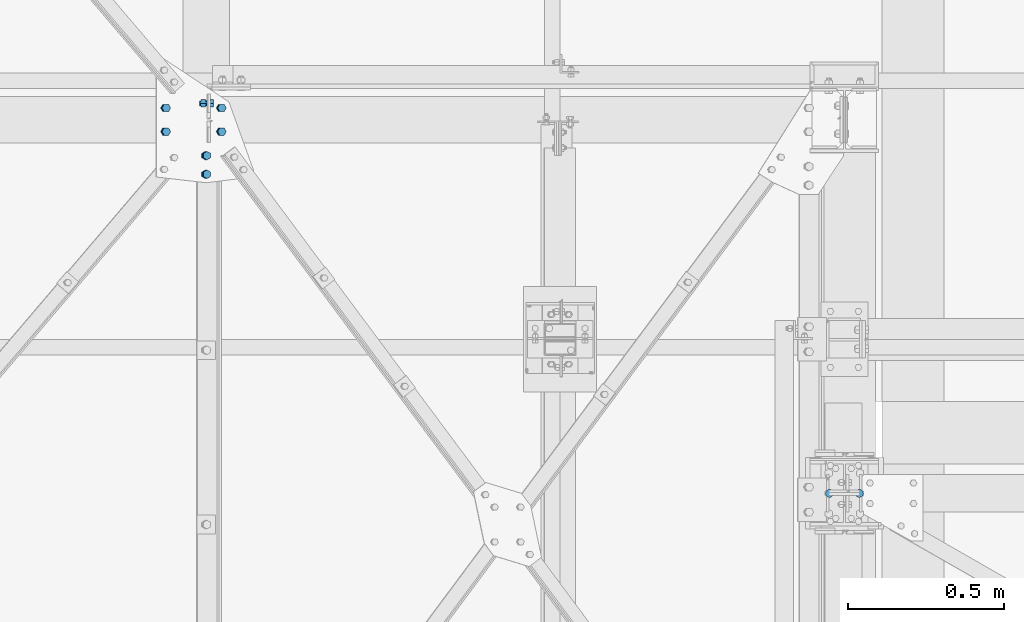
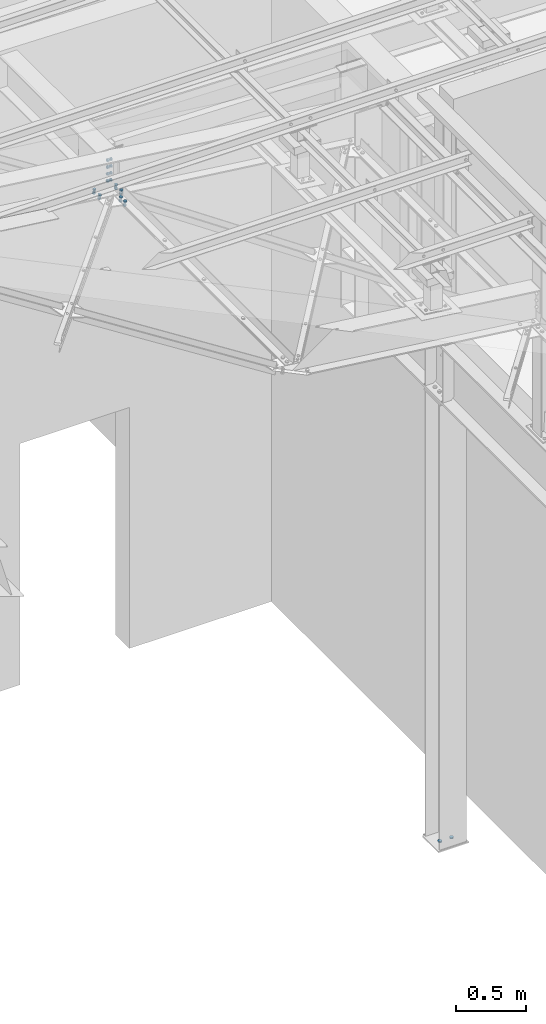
# One storey, part 387 of 3134: 4 mechanical fasteners, 4 elements without a shape of their own.
"""IFC2X3 building model written with IfcOpenShell, lengths in millimetres."""

from ifc_helpers import new_model, si_unit, frame, origin_with_axes, place, context, subcontext, project, spatial, faceted_brep, source, transform, mapped, material, type_object, element, aggregate, save


model = new_model("IFC2X3")

# Units and contexts
model_context = context("Model", 3, precision=1e-05, world=origin_with_axes())
body_context = subcontext(model_context, "Body", "Model", "MODEL_VIEW")
ifc_project = project(units=[si_unit("LENGTHUNIT", "METRE", prefix="MILLI"), si_unit("AREAUNIT", "SQUARE_METRE"), si_unit("VOLUMEUNIT", "CUBIC_METRE"), si_unit("MASSUNIT", "GRAM", prefix="KILO"), si_unit("TIMEUNIT", "SECOND"), si_unit("PLANEANGLEUNIT", "RADIAN"), si_unit("SOLIDANGLEUNIT", "STERADIAN"), si_unit("THERMODYNAMICTEMPERATUREUNIT", "DEGREE_CELSIUS"), si_unit("LUMINOUSINTENSITYUNIT", "LUMEN")], contexts=[model_context])

# Site, building, storey
site_placement = place(None, origin_with_axes())
site = spatial("IfcSite", under=ifc_project, at=site_placement, CompositionType="ELEMENT")
building_placement = place(site_placement, origin_with_axes())
building = spatial("IfcBuilding", under=site, at=building_placement, Name="Undefined", CompositionType="ELEMENT")
storey_placement = place(building_placement, origin_with_axes())
storey = spatial("IfcBuildingStorey", under=building, at=storey_placement, Name="Undefined", CompositionType="ELEMENT", Elevation=0.0)

# Assembly, mechanical fastener
assembly_1_placement = place(storey_placement, origin_with_axes())
assembly_1 = element("IfcElementAssembly", 1, at=assembly_1_placement, inside=storey, Name="HEA220", AssemblyPlace="NOTDEFINED", PredefinedType="RIGID_FRAME")
ifc_material = material(Name="8.8")
mechanical_fastener_type = type_object("IfcMechanicalFastenerType", Name="Bolt assembly")
shared_shape_1 = source(origin_with_axes(), body_context, "Body", "Brep", [
    faceted_brep([(13.0, 0.0, 0.0), (11.2583302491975, 0.0, 6.50000000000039), (6.49999999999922, 0.0, 11.2583302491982), (-1.34723677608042e-12, 0.0, 13.0), (-6.50000000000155, 0.0, 11.2583302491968), (-11.2583302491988, 0.0, 6.49999999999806), (-13.0, 0.0, -2.69447355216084e-12), (-11.2583302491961, 0.0, -6.50000000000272), (-6.4999999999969, 0.0, -11.2583302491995), (4.02727742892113e-12, 0.0, -13.0), (6.50000000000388, 0.0, -11.2583302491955), (11.2583302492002, 0.0, -6.49999999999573), (11.2583302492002, 12.1, -6.49999999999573), (6.50000000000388, 12.1, -11.2583302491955), (4.02727742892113e-12, 12.1, -13.0), (-6.4999999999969, 12.1, -11.2583302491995), (-11.2583302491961, 12.1, -6.50000000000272), (-13.0, 12.1, -2.69447355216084e-12), (-11.2583302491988, 12.1, 6.49999999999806), (-6.50000000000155, 12.1, 11.2583302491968), (-1.34723677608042e-12, 12.1, 13.0), (6.49999999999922, 12.1, 11.2583302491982), (11.2583302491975, 12.1, 6.50000000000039), (13.0, 12.1, 0.0)], [[[0, 1, 2, 3, 4, 5, 6, 7, 8, 9, 10, 11]], [[12, 13, 14, 15, 16, 17, 18, 19, 20, 21, 22, 23]], [[0, 23, 22, 1]], [[1, 22, 21, 2]], [[2, 21, 20, 3]], [[3, 20, 19, 4]], [[4, 19, 18, 5]], [[5, 18, 17, 6]], [[6, 17, 16, 7]], [[7, 16, 15, 8]], [[8, 15, 14, 9]], [[9, 14, 13, 10]], [[10, 13, 12, 11]], [[11, 12, 23, 0]]]),
])
mechanical_fastener_1_placement = place(assembly_1_placement, frame((71815.0, 26050.0, -400.0), z_axis=(1.0, 0.0, 0.0), x_axis=(0.0, 1.0, 0.0)))
mechanical_fastener_1 = element("IfcMechanicalFastener", 2, at=mechanical_fastener_1_placement, type_object=mechanical_fastener_type, material=ifc_material, Name="Bolt assembly", NominalDiameter=24.0, NominalLength=12.0, context=body_context, shape_type="MappedRepresentation", body=[
    mapped(shared_shape_1, transform((0.0, 0.0, -48.0))),
    mapped(shared_shape_1, transform((0.0, 0.0, 48.0))),
])
aggregate(assembly_1, [mechanical_fastener_1])

assembly_2_placement = place(storey_placement, origin_with_axes())
assembly_2 = element("IfcElementAssembly", 3, at=assembly_2_placement, inside=storey, AssemblyPlace="NOTDEFINED", PredefinedType="RIGID_FRAME")
shared_shape_2 = source(origin_with_axes(), body_context, "Body", "Brep", [
    faceted_brep([(13.856406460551, -20.9950087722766, 0.0), (6.92820323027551, -20.9950087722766, 12.0), (-6.92820323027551, -20.9950087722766, 12.0), (-13.856406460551, -20.9950087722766, 1.69692038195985e-15), (-6.92820323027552, -20.9950087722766, -12.0), (6.9282032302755, -20.9950087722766, -12.0), (6.9282032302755, -10.9950087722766, -12.0), (-6.92820323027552, -10.9950087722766, -12.0), (-13.856406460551, -10.9950087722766, 1.69692038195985e-15), (-6.92820323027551, -10.9950087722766, 12.0), (6.92820323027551, -10.9950087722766, 12.0), (13.856406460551, -10.9950087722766, 0.0), (8.0, -10.9950087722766, 0.0), (6.92820323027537, -10.9950087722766, 4.00000000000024), (3.99999999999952, -10.9950087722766, 6.92820323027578), (-8.29068785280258e-13, -10.9950087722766, 8.0), (-4.00000000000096, -10.9950087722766, 6.92820323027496), (-6.9282032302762, -10.9950087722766, 3.99999999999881), (-8.0, -10.9950087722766, -1.65813757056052e-12), (-6.92820323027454, -10.9950087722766, -4.00000000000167), (-3.99999999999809, -10.9950087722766, -6.92820323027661), (2.47832457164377e-12, -10.9950087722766, -8.0), (4.00000000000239, -10.9950087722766, -6.92820323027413), (6.92820323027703, -10.9950087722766, -3.99999999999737), (6.92820323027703, 29.0049912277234, -3.99999999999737), (4.00000000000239, 29.0049912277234, -6.92820323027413), (2.47832457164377e-12, 29.0049912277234, -8.0), (-3.99999999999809, 29.0049912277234, -6.92820323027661), (-6.92820323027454, 29.0049912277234, -4.00000000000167), (-8.0, 29.0049912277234, -1.65813757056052e-12), (-6.9282032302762, 29.0049912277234, 3.99999999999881), (-4.00000000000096, 29.0049912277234, 6.92820323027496), (-8.29068785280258e-13, 29.0049912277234, 8.0), (3.99999999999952, 29.0049912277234, 6.92820323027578), (6.92820323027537, 29.0049912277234, 4.00000000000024), (8.0, 29.0049912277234, 0.0), (13.856406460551, 11.0049912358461, 0.0), (6.92820323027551, 11.0049912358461, 12.0), (-6.92820323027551, 11.0049912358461, 12.0), (-13.856406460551, 11.0049912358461, 1.69692038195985e-15), (-6.92820323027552, 11.0049912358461, -12.0), (6.9282032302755, 11.0049912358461, -12.0), (6.9282032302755, 24.0049912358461, -12.0), (-6.92820323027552, 24.0049912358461, -12.0), (-13.856406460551, 24.0049912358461, 1.69692038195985e-15), (-6.92820323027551, 24.0049912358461, 12.0), (6.92820323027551, 24.0049912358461, 12.0), (13.856406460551, 24.0049912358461, 0.0)], [[[0, 1, 2, 3, 4, 5]], [[6, 7, 8, 9, 10, 11]], [[0, 11, 10, 1]], [[1, 10, 9, 2]], [[2, 9, 8, 3]], [[3, 8, 7, 4]], [[4, 7, 6, 5]], [[5, 6, 11, 0]], [[12, 13, 14, 15, 16, 17, 18, 19, 20, 21, 22, 23]], [[24, 25, 26, 27, 28, 29, 30, 31, 32, 33, 34, 35]], [[12, 35, 34, 13]], [[13, 34, 33, 14]], [[14, 33, 32, 15]], [[15, 32, 31, 16]], [[16, 31, 30, 17]], [[17, 30, 29, 18]], [[18, 29, 28, 19]], [[19, 28, 27, 20]], [[20, 27, 26, 21]], [[21, 26, 25, 22]], [[22, 25, 24, 23]], [[23, 24, 35, 12]], [[36, 37, 38, 39, 40, 41]], [[42, 43, 44, 45, 46, 47]], [[36, 47, 46, 37]], [[37, 46, 45, 38]], [[38, 45, 44, 39]], [[39, 44, 43, 40]], [[40, 43, 42, 41]], [[41, 42, 47, 36]]]),
    faceted_brep([(9.0, -10.8950087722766, 0.0), (7.79422863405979, -10.8950087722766, 4.50000000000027), (4.49999999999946, -10.8950087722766, 7.79422863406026), (-9.3270238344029e-13, -10.8950087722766, 9.0), (-4.50000000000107, -10.8950087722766, 7.79422863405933), (-7.79422863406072, -10.8950087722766, 4.49999999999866), (-9.0, -10.8950087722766, -1.86540476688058e-12), (-7.79422863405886, -10.8950087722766, -4.50000000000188), (-4.49999999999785, -10.8950087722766, -7.79422863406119), (2.78811514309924e-12, -10.8950087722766, -9.0), (4.50000000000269, -10.8950087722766, -7.7942286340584), (7.79422863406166, -10.8950087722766, -4.49999999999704), (7.79422863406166, -3.89500877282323, -4.49999999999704), (4.50000000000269, -3.89500877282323, -7.7942286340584), (2.78811514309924e-12, -3.89500877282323, -9.0), (-4.49999999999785, -3.89500877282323, -7.79422863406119), (-7.79422863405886, -3.89500877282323, -4.50000000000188), (-9.0, -3.89500877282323, -1.86540476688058e-12), (-7.79422863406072, -3.89500877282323, 4.49999999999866), (-4.50000000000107, -3.89500877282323, 7.79422863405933), (-9.3270238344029e-13, -3.89500877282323, 9.0), (4.49999999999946, -3.89500877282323, 7.79422863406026), (7.79422863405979, -3.89500877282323, 4.50000000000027), (9.0, -3.89500877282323, 0.0), (9.0, 3.90499123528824, 0.0), (7.79422863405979, 3.90499123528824, 4.50000000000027), (4.49999999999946, 3.90499123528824, 7.79422863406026), (-9.3270238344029e-13, 3.90499123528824, 9.0), (-4.50000000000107, 3.90499123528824, 7.79422863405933), (-7.79422863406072, 3.90499123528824, 4.49999999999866), (-9.0, 3.90499123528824, -1.86540476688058e-12), (-7.79422863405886, 3.90499123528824, -4.50000000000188), (-4.49999999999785, 3.90499123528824, -7.79422863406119), (2.78811514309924e-12, 3.90499123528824, -9.0), (4.50000000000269, 3.90499123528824, -7.7942286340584), (7.79422863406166, 3.90499123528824, -4.49999999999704), (7.79422863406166, 11.0049912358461, -4.49999999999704), (4.50000000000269, 11.0049912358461, -7.7942286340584), (2.78811514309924e-12, 11.0049912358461, -9.0), (-4.49999999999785, 11.0049912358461, -7.79422863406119), (-7.79422863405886, 11.0049912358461, -4.50000000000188), (-9.0, 11.0049912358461, -1.86540476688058e-12), (-7.79422863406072, 11.0049912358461, 4.49999999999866), (-4.50000000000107, 11.0049912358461, 7.79422863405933), (-9.3270238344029e-13, 11.0049912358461, 9.0), (4.49999999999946, 11.0049912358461, 7.79422863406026), (7.79422863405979, 11.0049912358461, 4.50000000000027), (9.0, 11.0049912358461, 0.0), (9.0, -3.99999624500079, 0.0), (7.79422863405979, -3.99999624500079, 4.50000000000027), (4.49999999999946, -3.99999624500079, 7.79422863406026), (-9.3270238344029e-13, -3.99999624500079, 9.0), (-4.50000000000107, -3.99999624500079, 7.79422863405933), (-7.79422863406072, -3.99999624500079, 4.49999999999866), (-9.0, -3.99999624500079, -1.86540476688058e-12), (-7.79422863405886, -3.99999624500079, -4.50000000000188), (-4.49999999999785, -3.99999624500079, -7.79422863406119), (2.78811514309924e-12, -3.99999624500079, -9.0), (4.50000000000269, -3.99999624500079, -7.7942286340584), (7.79422863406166, -3.99999624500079, -4.49999999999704), (7.79422863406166, 4.00000375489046, -4.49999999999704), (4.50000000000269, 4.00000375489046, -7.7942286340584), (2.78811514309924e-12, 4.00000375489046, -9.0), (-4.49999999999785, 4.00000375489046, -7.79422863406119), (-7.79422863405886, 4.00000375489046, -4.50000000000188), (-9.0, 4.00000375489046, -1.86540476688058e-12), (-7.79422863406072, 4.00000375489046, 4.49999999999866), (-4.50000000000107, 4.00000375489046, 7.79422863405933), (-9.3270238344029e-13, 4.00000375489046, 9.0), (4.49999999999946, 4.00000375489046, 7.79422863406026), (7.79422863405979, 4.00000375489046, 4.50000000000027), (9.0, 4.00000375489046, 0.0)], [[[0, 1, 2, 3, 4, 5, 6, 7, 8, 9, 10, 11]], [[12, 13, 14, 15, 16, 17, 18, 19, 20, 21, 22, 23]], [[0, 23, 22, 1]], [[1, 22, 21, 2]], [[2, 21, 20, 3]], [[3, 20, 19, 4]], [[4, 19, 18, 5]], [[5, 18, 17, 6]], [[6, 17, 16, 7]], [[7, 16, 15, 8]], [[8, 15, 14, 9]], [[9, 14, 13, 10]], [[10, 13, 12, 11]], [[11, 12, 23, 0]], [[24, 25, 26, 27, 28, 29, 30, 31, 32, 33, 34, 35]], [[36, 37, 38, 39, 40, 41, 42, 43, 44, 45, 46, 47]], [[24, 47, 46, 25]], [[25, 46, 45, 26]], [[26, 45, 44, 27]], [[27, 44, 43, 28]], [[28, 43, 42, 29]], [[29, 42, 41, 30]], [[30, 41, 40, 31]], [[31, 40, 39, 32]], [[32, 39, 38, 33]], [[33, 38, 37, 34]], [[34, 37, 36, 35]], [[35, 36, 47, 24]], [[48, 49, 50, 51, 52, 53, 54, 55, 56, 57, 58, 59]], [[60, 61, 62, 63, 64, 65, 66, 67, 68, 69, 70, 71]], [[48, 71, 70, 49]], [[49, 70, 69, 50]], [[50, 69, 68, 51]], [[51, 68, 67, 52]], [[52, 67, 66, 53]], [[53, 66, 65, 54]], [[54, 65, 64, 55]], [[55, 64, 63, 56]], [[56, 63, 62, 57]], [[57, 62, 61, 58]], [[58, 61, 60, 59]], [[59, 60, 71, 48]]]),
])
mechanical_fastener_2_placement = place(assembly_2_placement, frame((69764.9976774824, 27074.9999999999, 5245.22032762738), z_axis=(-0.992623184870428, 0.0, 0.121240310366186), x_axis=(0.0, 1.0, 0.0)))
mechanical_fastener_2 = element("IfcMechanicalFastener", 4, at=mechanical_fastener_2_placement, type_object=mechanical_fastener_type, material=ifc_material, Name="Bolt assembly", NominalDiameter=16.0, NominalLength=40.0, context=body_context, shape_type="MappedRepresentation", body=[
    mapped(shared_shape_2, transform((0.0, 0.0, 0.0))),
    mapped(shared_shape_2, transform((59.9999999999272, 0.0, 5.40239852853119e-10))),
])
aggregate(assembly_2, [mechanical_fastener_2])

assembly_3_placement = place(storey_placement, origin_with_axes())
assembly_3 = element("IfcElementAssembly", 5, at=assembly_3_placement, inside=storey, Name="PL8", AssemblyPlace="NOTDEFINED", PredefinedType="RIGID_FRAME")
shared_shape_3 = source(origin_with_axes(), body_context, "Body", "Brep", [
    faceted_brep([(13.856406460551, -23.2016612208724, 0.0), (6.92820323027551, -23.2016612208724, 12.0), (-6.92820323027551, -23.2016612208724, 12.0), (-13.856406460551, -23.2016612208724, 1.69692038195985e-15), (-6.92820323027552, -23.2016612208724, -12.0), (6.9282032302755, -23.2016612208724, -12.0), (6.9282032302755, -13.2016612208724, -12.0), (-6.92820323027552, -13.2016612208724, -12.0), (-13.856406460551, -13.2016612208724, 1.69692038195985e-15), (-6.92820323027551, -13.2016612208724, 12.0), (6.92820323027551, -13.2016612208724, 12.0), (13.856406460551, -13.2016612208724, 0.0), (8.0, -13.2016612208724, 0.0), (6.92820323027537, -13.2016612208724, 4.00000000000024), (3.99999999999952, -13.2016612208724, 6.92820323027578), (-8.29068785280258e-13, -13.2016612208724, 8.0), (-4.00000000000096, -13.2016612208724, 6.92820323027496), (-6.9282032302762, -13.2016612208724, 3.99999999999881), (-8.0, -13.2016612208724, -1.65813757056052e-12), (-6.92820323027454, -13.2016612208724, -4.00000000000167), (-3.99999999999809, -13.2016612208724, -6.92820323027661), (2.47832457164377e-12, -13.2016612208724, -8.0), (4.00000000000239, -13.2016612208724, -6.92820323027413), (6.92820323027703, -13.2016612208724, -3.99999999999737), (6.92820323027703, 21.7983387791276, -3.99999999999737), (4.00000000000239, 21.7983387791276, -6.92820323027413), (2.47832457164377e-12, 21.7983387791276, -8.0), (-3.99999999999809, 21.7983387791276, -6.92820323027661), (-6.92820323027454, 21.7983387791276, -4.00000000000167), (-8.0, 21.7983387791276, -1.65813757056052e-12), (-6.9282032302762, 21.7983387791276, 3.99999999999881), (-4.00000000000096, 21.7983387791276, 6.92820323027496), (-8.29068785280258e-13, 21.7983387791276, 8.0), (3.99999999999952, 21.7983387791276, 6.92820323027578), (6.92820323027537, 21.7983387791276, 4.00000000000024), (8.0, 21.7983387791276, 0.0), (13.856406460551, 3.99999999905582, 0.0), (6.92820323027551, 3.99999999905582, 12.0), (-6.92820323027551, 3.99999999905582, 12.0), (-13.856406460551, 3.99999999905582, 1.69692038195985e-15), (-6.92820323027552, 3.99999999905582, -12.0), (6.9282032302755, 3.99999999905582, -12.0), (6.9282032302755, 16.9999999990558, -12.0), (-6.92820323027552, 16.9999999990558, -12.0), (-13.856406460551, 16.9999999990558, 1.69692038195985e-15), (-6.92820323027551, 16.9999999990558, 12.0), (6.92820323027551, 16.9999999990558, 12.0), (13.856406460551, 16.9999999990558, 0.0)], [[[0, 1, 2, 3, 4, 5]], [[6, 7, 8, 9, 10, 11]], [[0, 11, 10, 1]], [[1, 10, 9, 2]], [[2, 9, 8, 3]], [[3, 8, 7, 4]], [[4, 7, 6, 5]], [[5, 6, 11, 0]], [[12, 13, 14, 15, 16, 17, 18, 19, 20, 21, 22, 23]], [[24, 25, 26, 27, 28, 29, 30, 31, 32, 33, 34, 35]], [[12, 35, 34, 13]], [[13, 34, 33, 14]], [[14, 33, 32, 15]], [[15, 32, 31, 16]], [[16, 31, 30, 17]], [[17, 30, 29, 18]], [[18, 29, 28, 19]], [[19, 28, 27, 20]], [[20, 27, 26, 21]], [[21, 26, 25, 22]], [[22, 25, 24, 23]], [[23, 24, 35, 12]], [[36, 37, 38, 39, 40, 41]], [[42, 43, 44, 45, 46, 47]], [[36, 47, 46, 37]], [[37, 46, 45, 38]], [[38, 45, 44, 39]], [[39, 44, 43, 40]], [[40, 43, 42, 41]], [[41, 42, 47, 36]]]),
    faceted_brep([(9.0, -13.1016612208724, 0.0), (7.79422863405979, -13.1016612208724, 4.50000000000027), (4.49999999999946, -13.1016612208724, 7.79422863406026), (-9.3270238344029e-13, -13.1016612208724, 9.0), (-4.50000000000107, -13.1016612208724, 7.79422863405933), (-7.79422863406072, -13.1016612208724, 4.49999999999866), (-9.0, -13.1016612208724, -1.86540476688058e-12), (-7.79422863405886, -13.1016612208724, -4.50000000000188), (-4.49999999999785, -13.1016612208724, -7.79422863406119), (2.78811514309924e-12, -13.1016612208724, -9.0), (4.50000000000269, -13.1016612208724, -7.7942286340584), (7.79422863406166, -13.1016612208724, -4.49999999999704), (7.79422863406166, -3.90166141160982, -4.49999999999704), (4.50000000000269, -3.90166141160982, -7.7942286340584), (2.78811514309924e-12, -3.90166141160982, -9.0), (-4.49999999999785, -3.90166141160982, -7.79422863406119), (-7.79422863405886, -3.90166141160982, -4.50000000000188), (-9.0, -3.90166141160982, -1.86540476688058e-12), (-7.79422863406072, -3.90166141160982, 4.49999999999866), (-4.50000000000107, -3.90166141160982, 7.79422863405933), (-9.3270238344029e-13, -3.90166141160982, 9.0), (4.49999999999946, -3.90166141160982, 7.79422863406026), (7.79422863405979, -3.90166141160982, 4.50000000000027), (9.0, -3.90166141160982, 0.0), (9.0, -4.10000000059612, 0.0), (7.79422863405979, -4.10000000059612, 4.50000000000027), (4.49999999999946, -4.10000000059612, 7.79422863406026), (-9.3270238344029e-13, -4.10000000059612, 9.0), (-4.50000000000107, -4.10000000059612, 7.79422863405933), (-7.79422863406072, -4.10000000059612, 4.49999999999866), (-9.0, -4.10000000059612, -1.86540476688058e-12), (-7.79422863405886, -4.10000000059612, -4.50000000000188), (-4.49999999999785, -4.10000000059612, -7.79422863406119), (2.78811514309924e-12, -4.10000000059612, -9.0), (4.50000000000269, -4.10000000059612, -7.7942286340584), (7.79422863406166, -4.10000000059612, -4.49999999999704), (7.79422863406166, 4.00000375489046, -4.49999999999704), (4.50000000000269, 4.00000375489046, -7.7942286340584), (2.78811514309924e-12, 4.00000375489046, -9.0), (-4.49999999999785, 4.00000375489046, -7.79422863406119), (-7.79422863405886, 4.00000375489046, -4.50000000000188), (-9.0, 4.00000375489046, -1.86540476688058e-12), (-7.79422863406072, 4.00000375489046, 4.49999999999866), (-4.50000000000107, 4.00000375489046, 7.79422863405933), (-9.3270238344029e-13, 4.00000375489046, 9.0), (4.49999999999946, 4.00000375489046, 7.79422863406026), (7.79422863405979, 4.00000375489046, 4.50000000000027), (9.0, 4.00000375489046, 0.0)], [[[0, 1, 2, 3, 4, 5, 6, 7, 8, 9, 10, 11]], [[12, 13, 14, 15, 16, 17, 18, 19, 20, 21, 22, 23]], [[0, 23, 22, 1]], [[1, 22, 21, 2]], [[2, 21, 20, 3]], [[3, 20, 19, 4]], [[4, 19, 18, 5]], [[5, 18, 17, 6]], [[6, 17, 16, 7]], [[7, 16, 15, 8]], [[8, 15, 14, 9]], [[9, 14, 13, 10]], [[10, 13, 12, 11]], [[11, 12, 23, 0]], [[24, 25, 26, 27, 28, 29, 30, 31, 32, 33, 34, 35]], [[36, 37, 38, 39, 40, 41, 42, 43, 44, 45, 46, 47]], [[24, 47, 46, 25]], [[25, 46, 45, 26]], [[26, 45, 44, 27]], [[27, 44, 43, 28]], [[28, 43, 42, 29]], [[29, 42, 41, 30]], [[30, 41, 40, 31]], [[31, 40, 39, 32]], [[32, 39, 38, 33]], [[33, 38, 37, 34]], [[34, 37, 36, 35]], [[35, 36, 47, 24]]]),
])
mechanical_fastener_3_placement = place(assembly_3_placement, frame((69812.8735510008, 27249.9999374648, 5239.37270503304), z_axis=(0.0, -1.0, 0.0), x_axis=(-0.992623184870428, 0.0, 0.121240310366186)))
mechanical_fastener_3 = element("IfcMechanicalFastener", 6, at=mechanical_fastener_3_placement, type_object=mechanical_fastener_type, material=ifc_material, Name="Bolt assembly", NominalDiameter=16.0, NominalLength=35.0, context=body_context, shape_type="MappedRepresentation", body=[
    mapped(shared_shape_3, transform((0.0, 0.0, -38.0))),
    mapped(shared_shape_3, transform((179.999999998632, -1.43700162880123e-09, -37.9999999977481))),
    mapped(shared_shape_3, transform((0.0, 0.0, 38.0))),
    mapped(shared_shape_3, transform((179.999999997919, -1.62071955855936e-09, 38.0000000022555))),
])
aggregate(assembly_3, [mechanical_fastener_3])

assembly_4_placement = place(storey_placement, origin_with_axes())
assembly_4 = element("IfcElementAssembly", 7, at=assembly_4_placement, inside=storey, Name="300", AssemblyPlace="NOTDEFINED", PredefinedType="RIGID_FRAME")
shared_shape_4 = source(origin_with_axes(), body_context, "Body", "Brep", [
    faceted_brep([(13.856406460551, -20.0, 0.0), (6.92820323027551, -20.0, 12.0), (-6.92820323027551, -20.0, 12.0), (-13.856406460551, -20.0, 1.69692038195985e-15), (-6.92820323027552, -20.0, -12.0), (6.9282032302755, -20.0, -12.0), (6.9282032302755, -10.0, -12.0), (-6.92820323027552, -10.0, -12.0), (-13.856406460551, -10.0, 1.69692038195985e-15), (-6.92820323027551, -10.0, 12.0), (6.92820323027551, -10.0, 12.0), (13.856406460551, -10.0, 0.0), (8.0, -10.0, 0.0), (6.92820323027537, -10.0, 4.00000000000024), (3.99999999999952, -10.0, 6.92820323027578), (-8.29068785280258e-13, -10.0, 8.0), (-4.00000000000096, -10.0, 6.92820323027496), (-6.9282032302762, -10.0, 3.99999999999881), (-8.0, -10.0, -1.65813757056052e-12), (-6.92820323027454, -10.0, -4.00000000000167), (-3.99999999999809, -10.0, -6.92820323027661), (2.47832457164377e-12, -10.0, -8.0), (4.00000000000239, -10.0, -6.92820323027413), (6.92820323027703, -10.0, -3.99999999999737), (6.92820323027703, 25.0, -3.99999999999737), (4.00000000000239, 25.0, -6.92820323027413), (2.47832457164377e-12, 25.0, -8.0), (-3.99999999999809, 25.0, -6.92820323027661), (-6.92820323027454, 25.0, -4.00000000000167), (-8.0, 25.0, -1.65813757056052e-12), (-6.9282032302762, 25.0, 3.99999999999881), (-4.00000000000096, 25.0, 6.92820323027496), (-8.29068785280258e-13, 25.0, 8.0), (3.99999999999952, 25.0, 6.92820323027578), (6.92820323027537, 25.0, 4.00000000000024), (8.0, 25.0, 0.0), (13.856406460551, 6.10000803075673, 0.0), (6.92820323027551, 6.10000803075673, 12.0), (-6.92820323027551, 6.10000803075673, 12.0), (-13.856406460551, 6.10000803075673, 1.69692038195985e-15), (-6.92820323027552, 6.10000803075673, -12.0), (6.9282032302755, 6.10000803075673, -12.0), (6.9282032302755, 19.1000080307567, -12.0), (-6.92820323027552, 19.1000080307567, -12.0), (-13.856406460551, 19.1000080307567, 1.69692038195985e-15), (-6.92820323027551, 19.1000080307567, 12.0), (6.92820323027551, 19.1000080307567, 12.0), (13.856406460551, 19.1000080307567, 0.0)], [[[0, 1, 2, 3, 4, 5]], [[6, 7, 8, 9, 10, 11]], [[0, 11, 10, 1]], [[1, 10, 9, 2]], [[2, 9, 8, 3]], [[3, 8, 7, 4]], [[4, 7, 6, 5]], [[5, 6, 11, 0]], [[12, 13, 14, 15, 16, 17, 18, 19, 20, 21, 22, 23]], [[24, 25, 26, 27, 28, 29, 30, 31, 32, 33, 34, 35]], [[12, 35, 34, 13]], [[13, 34, 33, 14]], [[14, 33, 32, 15]], [[15, 32, 31, 16]], [[16, 31, 30, 17]], [[17, 30, 29, 18]], [[18, 29, 28, 19]], [[19, 28, 27, 20]], [[20, 27, 26, 21]], [[21, 26, 25, 22]], [[22, 25, 24, 23]], [[23, 24, 35, 12]], [[36, 37, 38, 39, 40, 41]], [[42, 43, 44, 45, 46, 47]], [[36, 47, 46, 37]], [[37, 46, 45, 38]], [[38, 45, 44, 39]], [[39, 44, 43, 40]], [[40, 43, 42, 41]], [[41, 42, 47, 36]]]),
    faceted_brep([(9.0, -0.1, 0.0), (7.79422863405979, -0.1, 4.50000000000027), (4.49999999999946, -0.1, 7.79422863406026), (-9.3270238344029e-13, -0.1, 9.0), (-4.50000000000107, -0.1, 7.79422863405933), (-7.79422863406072, -0.1, 4.49999999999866), (-9.0, -0.1, -1.86540476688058e-12), (-7.79422863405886, -0.1, -4.50000000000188), (-4.49999999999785, -0.1, -7.79422863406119), (2.78811514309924e-12, -0.1, -9.0), (4.50000000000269, -0.1, -7.7942286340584), (7.79422863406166, -0.1, -4.49999999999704), (7.79422863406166, 6.1, -4.49999999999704), (4.50000000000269, 6.1, -7.7942286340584), (2.78811514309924e-12, 6.1, -9.0), (-4.49999999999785, 6.1, -7.79422863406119), (-7.79422863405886, 6.1, -4.50000000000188), (-9.0, 6.1, -1.86540476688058e-12), (-7.79422863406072, 6.1, 4.49999999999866), (-4.50000000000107, 6.1, 7.79422863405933), (-9.3270238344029e-13, 6.1, 9.0), (4.49999999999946, 6.1, 7.79422863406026), (7.79422863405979, 6.1, 4.50000000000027), (9.0, 6.1, 0.0), (9.0, -9.89999997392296, 0.0), (7.79422863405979, -9.89999997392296, 4.50000000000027), (4.49999999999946, -9.89999997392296, 7.79422863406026), (-9.3270238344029e-13, -9.89999997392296, 9.0), (-4.50000000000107, -9.89999997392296, 7.79422863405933), (-7.79422863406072, -9.89999997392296, 4.49999999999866), (-9.0, -9.89999997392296, -1.86540476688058e-12), (-7.79422863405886, -9.89999997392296, -4.50000000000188), (-4.49999999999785, -9.89999997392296, -7.79422863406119), (2.78811514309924e-12, -9.89999997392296, -9.0), (4.50000000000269, -9.89999997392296, -7.7942286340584), (7.79422863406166, -9.89999997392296, -4.49999999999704), (7.79422863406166, 0.100000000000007, -4.49999999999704), (4.50000000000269, 0.100000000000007, -7.7942286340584), (2.78811514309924e-12, 0.100000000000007, -9.0), (-4.49999999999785, 0.100000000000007, -7.79422863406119), (-7.79422863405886, 0.100000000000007, -4.50000000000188), (-9.0, 0.100000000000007, -1.86540476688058e-12), (-7.79422863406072, 0.100000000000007, 4.49999999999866), (-4.50000000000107, 0.100000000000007, 7.79422863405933), (-9.3270238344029e-13, 0.100000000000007, 9.0), (4.49999999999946, 0.100000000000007, 7.79422863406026), (7.79422863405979, 0.100000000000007, 4.50000000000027), (9.0, 0.100000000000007, 0.0)], [[[0, 1, 2, 3, 4, 5, 6, 7, 8, 9, 10, 11]], [[12, 13, 14, 15, 16, 17, 18, 19, 20, 21, 22, 23]], [[0, 23, 22, 1]], [[1, 22, 21, 2]], [[2, 21, 20, 3]], [[3, 20, 19, 4]], [[4, 19, 18, 5]], [[5, 18, 17, 6]], [[6, 17, 16, 7]], [[7, 16, 15, 8]], [[8, 15, 14, 9]], [[9, 14, 13, 10]], [[10, 13, 12, 11]], [[11, 12, 23, 0]], [[24, 25, 26, 27, 28, 29, 30, 31, 32, 33, 34, 35]], [[36, 37, 38, 39, 40, 41, 42, 43, 44, 45, 46, 47]], [[24, 47, 46, 25]], [[25, 46, 45, 26]], [[26, 45, 44, 27]], [[27, 44, 43, 28]], [[28, 43, 42, 29]], [[29, 42, 41, 30]], [[30, 41, 40, 31]], [[31, 40, 39, 32]], [[32, 39, 38, 33]], [[33, 38, 37, 34]], [[34, 37, 36, 35]], [[35, 36, 47, 24]]]),
])
mechanical_fastener_4_placement = place(assembly_4_placement, frame((69768.0500000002, 27303.0499999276, 5482.29725198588), z_axis=(0.0, 1.0, 0.0), x_axis=(0.0, 0.0, -1.0)))
mechanical_fastener_4 = element("IfcMechanicalFastener", 8, at=mechanical_fastener_4_placement, type_object=mechanical_fastener_type, material=ifc_material, Name="Bolt assembly", NominalDiameter=16.0, NominalLength=35.0, context=body_context, shape_type="MappedRepresentation", body=[
    mapped(shared_shape_4, transform((0.0, 0.0, 0.0))),
    mapped(shared_shape_4, transform((59.9999999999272, 0.0, 5.40239852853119e-10))),
    mapped(shared_shape_4, transform((120.0, 0.0, 0.0))),
    mapped(shared_shape_4, transform((180.0, 0.0, 0.0))),
])
aggregate(assembly_4, [mechanical_fastener_4])

save(model, "model.ifc")
